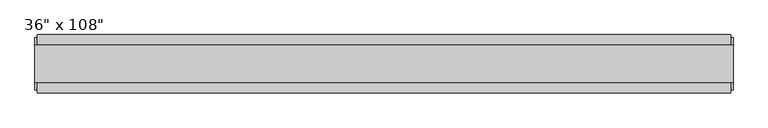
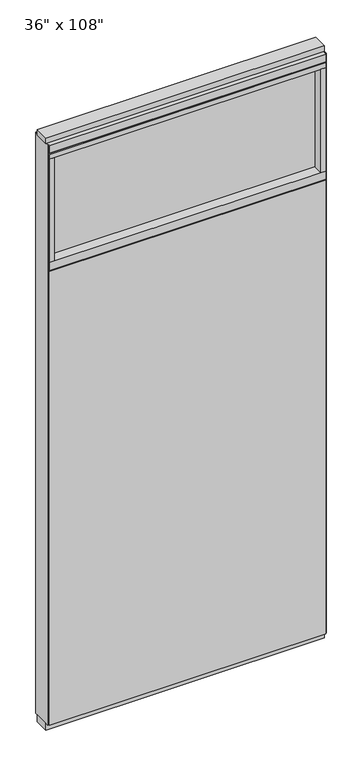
"""IFC4 building model written with IfcOpenShell, lengths in millimetres: furniture geometry."""

from ifc_helpers import new_model, si_unit, frame, origin, origin_with_axes, place, context, project, spatial, polyline, outline, extrude, source, transform, mapped, element, save


def furniture_bc88773f(model_context):
    return source(origin(), model_context, "Body", "SweptSolid", [
        extrude(outline(polyline([(545.6264771, 46.2822784), (545.6264771, 33.5822784), (-665.6995229, 33.5822784), (-665.6995229, 46.2822784), (545.6264771, 46.2822784)])), frame((0.0, 0.0, 31.75), z_axis=(0.0, 0.0, 1.0), x_axis=(1.0, 0.0, 0.0)), (0.0, 0.0, 1.0), 2101.85),
        extrude(outline(polyline([(545.6264771, -55.3177216), (-665.6995229, -55.3177216), (-665.6995229, -42.6177216), (545.6264771, -42.6177216), (545.6264771, -55.3177216)])), frame((0.0, 0.0, 31.75), z_axis=(0.0, 0.0, 1.0), x_axis=(1.0, 0.0, 0.0)), (0.0, 0.0, 1.0), 2101.85),
        extrude(outline(polyline([(523.4014771, -9.5977216), (-643.4745229, -9.5977216), (-643.4745229, 0.5622784), (523.4014771, 0.5622784), (523.4014771, -9.5977216)])), frame((0.0, 0.0, 2174.875), z_axis=(0.0, 0.0, 1.0), x_axis=(1.0, 0.0, 0.0)), (0.0, 0.0, 1.0), 479.425),
        extrude(outline(polyline([(523.4014771, -55.3177216), (523.4014771, 46.2822784), (545.6264771, 46.2822784), (545.6264771, -55.3177216), (523.4014771, -55.3177216)])), frame((0.0, 0.0, 2174.875), z_axis=(0.0, 0.0, 1.0), x_axis=(1.0, 0.0, 0.0)), (0.0, 0.0, 1.0), 479.425),
        extrude(outline(polyline([(-55.3177216, 2138.553), (-55.3177216, 2174.875), (46.2822784, 2174.875), (46.2822784, 2138.553), (41.3292784, 2138.553), (41.3292784, 2133.6), (-50.3647216, 2133.6), (-50.3647216, 2138.553), (-55.3177216, 2138.553)])), frame((-665.6995229, 0.0, 0.0), z_axis=(1.0, 0.0, 0.0), x_axis=(0.0, 1.0, 0.0)), (0.0, 0.0, 1.0), 1211.326),
        extrude(outline(polyline([(-643.4745229, -55.3177216), (-665.6995229, -55.3177216), (-665.6995229, 46.2822784), (-643.4745229, 46.2822784), (-643.4745229, -55.3177216)])), frame((0.0, 0.0, 2174.875), z_axis=(0.0, 0.0, 1.0), x_axis=(1.0, 0.0, 0.0)), (0.0, 0.0, 1.0), 479.425),
        extrude(outline(polyline([(549.5634771, 27.9942784), (549.5634771, -37.0297216), (-669.6365229, -37.0297216), (-669.6365229, 27.9942784), (549.5634771, 27.9942784)])), origin_with_axes(), (0.0, 0.0, 1.0), 31.75),
        extrude(outline(polyline([(-669.6365229, -37.0297216), (-669.6365229, 27.9942784), (549.5634771, 27.9942784), (549.5634771, -37.0297216), (-669.6365229, -37.0297216)])), frame((0.0, 0.0, 2717.8), z_axis=(0.0, 0.0, 1.0), x_axis=(1.0, 0.0, 0.0)), (0.0, 0.0, 1.0), 25.4),
        extrude(outline(polyline([(-55.3177216, 2681.478), (-55.3177216, 2717.8), (46.2822784, 2717.8), (46.2822784, 2681.478), (41.3292784, 2681.478), (41.3292784, 2676.525), (-50.3647216, 2676.525), (-50.3647216, 2681.478), (-55.3177216, 2681.478)])), frame((-665.6995229, 0.0, 0.0), z_axis=(1.0, 0.0, 0.0), x_axis=(0.0, 1.0, 0.0)), (0.0, 0.0, 1.0), 1211.326),
        extrude(outline(polyline([(545.6264771, 46.2822784), (545.6264771, -55.3177216), (-665.6995229, -55.3177216), (-665.6995229, 46.2822784), (545.6264771, 46.2822784)])), frame((0.0, 0.0, 2654.3), z_axis=(0.0, 0.0, 1.0), x_axis=(1.0, 0.0, 0.0)), (0.0, 0.0, 1.0), 22.225),
        extrude(outline(polyline([(549.5634771, -50.3647216), (545.6264771, -50.3647216), (545.6264771, 41.3292784), (549.5634771, 41.3292784), (549.5634771, -50.3647216)])), frame((0.0, 0.0, 31.75), z_axis=(0.0, 0.0, 1.0), x_axis=(1.0, 0.0, 0.0)), (0.0, 0.0, 1.0), 2686.05),
        extrude(outline(polyline([(-669.6365229, -50.3647216), (-669.6365229, 41.3292784), (-665.6995229, 41.3292784), (-665.6995229, -50.3647216), (-669.6365229, -50.3647216)])), frame((0.0, 0.0, 31.75), z_axis=(0.0, 0.0, 1.0), x_axis=(1.0, 0.0, 0.0)), (0.0, 0.0, 1.0), 2686.05),
    ])


if __name__ == "__main__":
    model = new_model("IFC4")
    model_context = context("Model", 3, world=origin())
    ifc_project = project(units=[si_unit("LENGTHUNIT", "METRE", prefix="MILLI")], contexts=[model_context])
    site = spatial("IfcSite", under=ifc_project)
    building = spatial("IfcBuilding", under=site)
    placement = place(None, origin())
    furniture_shape = furniture_bc88773f(model_context)
    element("IfcFurniture", 1, ObjectType="Haworth_Enclose_Wall_SolidTransom : 36\" x 108\"", at=placement, inside=building, context=model_context, shape_type="MappedRepresentation", body=[
        mapped(furniture_shape, transform((0.0, 0.0, 0.0), x_axis=(1.0, 0.0, 0.0), y_axis=(0.0, 1.0, 0.0), z_axis=(0.0, 0.0, 1.0))),
    ])
    save(model, "model.ifc")
